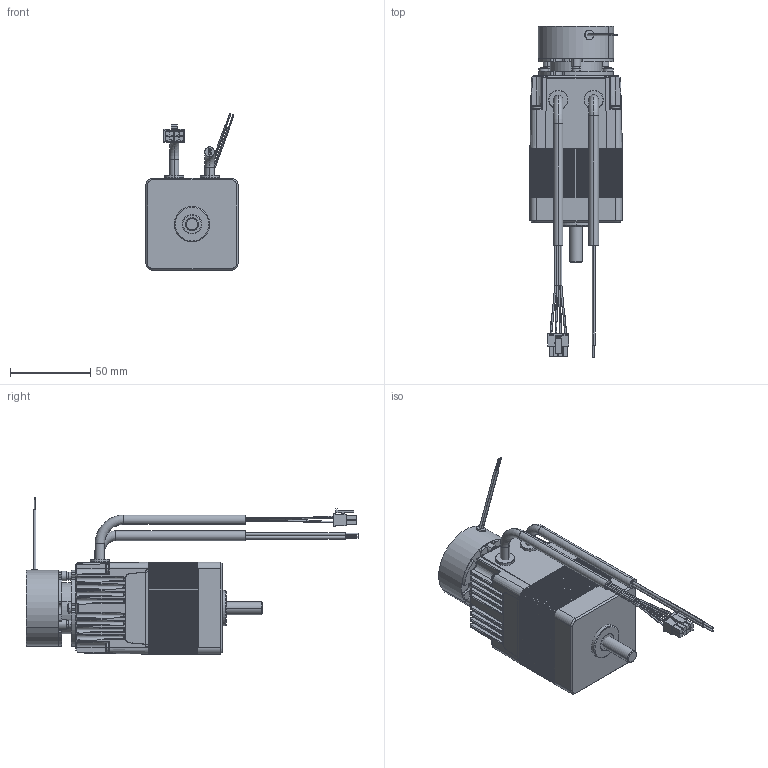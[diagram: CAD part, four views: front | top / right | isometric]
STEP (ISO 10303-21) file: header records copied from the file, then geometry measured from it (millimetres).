
FILE_DESCRIPTION((''),'2;1');
FILE_NAME('ENV_SIMP_STEP_TEMP','2012-10-24T',('VALJBL1'),('CROUZET-AUTOMATISMES'),'PRO/ENGINEER BY PARAMETRIC TECHNOLOGY CORPORATION, 2012090','PRO/ENGINEER BY PARAMETRIC TECHNOLOGY CORPORATION, 2012090','');
FILE_SCHEMA(('CONFIG_CONTROL_DESIGN'));
Length unit declared in the file: millimetre
Products named in the file (1): ENV_SIMP_STEP_TEMP
Bounding box: 57.4 x 206.35 x 97.22 mm (x, y, z)
Surface area: 66805.3 mm2 (no closed solid volume)
Topology: 0 solids, 135 shells, 1487 faces, 4214 edges, 2781 vertices
Faces by surface type: plane 681, cylinder 648, sphere 52, bspline 40, torus 36, cone 30
Entity records: 49376 total; most frequent: CARTESIAN_POINT 11943, DIRECTION 8375, ORIENTED_EDGE 6291, EDGE_CURVE 4214, AXIS2_PLACEMENT_3D 2867, VERTEX_POINT 2781, VECTOR 2641, LINE 2641
